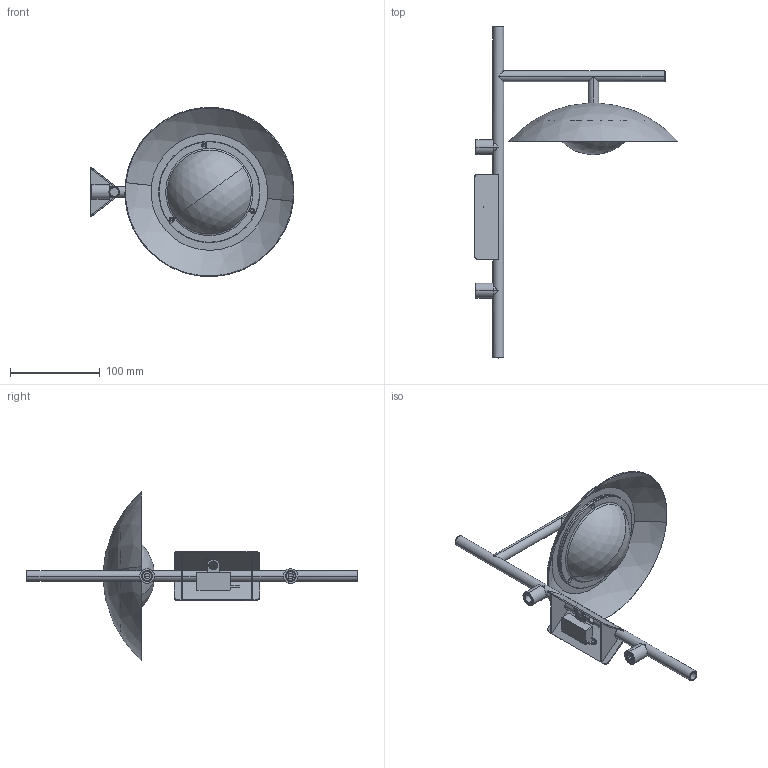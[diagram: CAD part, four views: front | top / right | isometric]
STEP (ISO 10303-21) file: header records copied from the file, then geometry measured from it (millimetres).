
FILE_DESCRIPTION (( 'STEP AP203' ), '1' );
FILE_NAME ('Aplique brazo mini (con pantalla CUPULA).STEP', '2025-01-10T12:41:43', ( '' ), ( '' ), 'SwSTEP 2.0', 'SolidWorks 2021', '' );
FILE_SCHEMA (( 'CONFIG_CONTROL_DESIGN' ));
Length unit declared in the file: millimetre
Products named in the file (1): Aplique brazo mini (con pantalla CUPULA)
Bounding box: 227.23 x 370 x 188.45 mm (x, y, z)
Surface area: 205881.6 mm2 (no closed solid volume)
Topology: 0 solids, 131 shells, 2575 faces, 6766 edges, 4449 vertices
Faces by surface type: plane 1273, bspline 841, cylinder 422, torus 23, cone 8, sphere 8
Entity records: 107421 total; most frequent: CARTESIAN_POINT 50246, ORIENTED_EDGE 13264, DIRECTION 8970, EDGE_CURVE 6716, VERTEX_POINT 4449, VECTOR 4054, LINE 4054, EDGE_LOOP 2719
